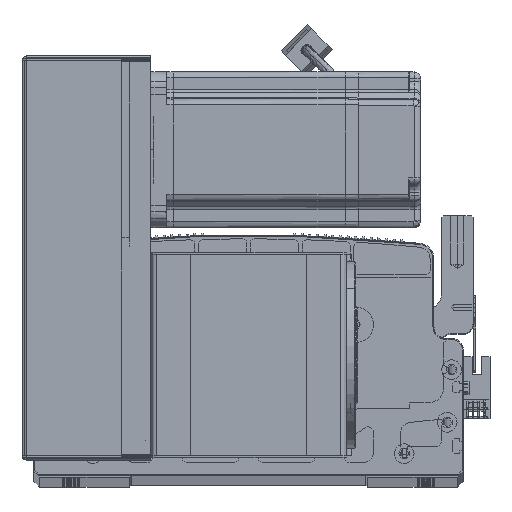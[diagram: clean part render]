
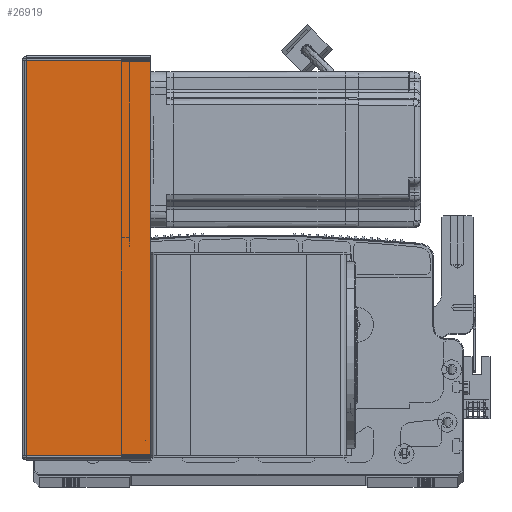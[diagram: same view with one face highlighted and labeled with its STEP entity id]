
A CAD part, top view. The second image highlights one B-rep face of the part: STEP entity #26919.
In plain terms, the highlighted planar face has unit normal (0, 0, 1) as drawn and (0, 1, 0) by its records, which use the part's own axes.
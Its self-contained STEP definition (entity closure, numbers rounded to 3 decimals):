
#490 = CARTESIAN_POINT ( 'NONE',  ( 64.5, 107.5, -0.707 ) ) ;
#5575 = PLANE ( 'NONE',  #26564 ) ;
#11788 = CARTESIAN_POINT ( 'NONE',  ( 0., 107.5, -203.293 ) ) ;
#12187 = VERTEX_POINT ( 'NONE', #490 ) ;
#17786 = LINE ( 'NONE', #84858, #60900 ) ;
#20621 = CARTESIAN_POINT ( 'NONE',  ( 0., 107.5, 0. ) ) ;
#21946 = DIRECTION ( 'NONE',  ( 1., 0., 0. ) ) ;
#26564 = AXIS2_PLACEMENT_3D ( 'NONE', #20621, #44675, #21946 ) ;
#26919 = ADVANCED_FACE ( 'NONE', ( #82412 ), #5575, .F. ) ;
#27357 = VERTEX_POINT ( 'NONE', #46375 ) ;
#27834 = LINE ( 'NONE', #11788, #32625 ) ;
#28136 = DIRECTION ( 'NONE',  ( 0., 0., -1. ) ) ;
#29338 = VECTOR ( 'NONE', #63419, 1000. ) ;
#32001 = DIRECTION ( 'NONE',  ( 0., 0., -1. ) ) ;
#32625 = VECTOR ( 'NONE', #48915, 1000. ) ;
#34133 = LINE ( 'NONE', #62468, #29338 ) ;
#34667 = EDGE_CURVE ( 'NONE', #12187, #50489, #17786, .T. ) ;
#38965 = EDGE_CURVE ( 'NONE', #55605, #12187, #34133, .T. ) ;
#39770 = EDGE_CURVE ( 'NONE', #55605, #27357, #61544, .T. ) ;
#39994 = ORIENTED_EDGE ( 'NONE', *, *, #44932, .F. ) ;
#44675 = DIRECTION ( 'NONE',  ( 0., -1., 0. ) ) ;
#44932 = EDGE_CURVE ( 'NONE', #27357, #50489, #27834, .T. ) ;
#46375 = CARTESIAN_POINT ( 'NONE',  ( 0.737, 107.5, -203.293 ) ) ;
#48355 = VECTOR ( 'NONE', #28136, 1000. ) ;
#48915 = DIRECTION ( 'NONE',  ( 1., 0., 0. ) ) ;
#49631 = ORIENTED_EDGE ( 'NONE', *, *, #34667, .T. ) ;
#50226 = CARTESIAN_POINT ( 'NONE',  ( 64.5, 107.5, -203.293 ) ) ;
#50489 = VERTEX_POINT ( 'NONE', #50226 ) ;
#51049 = ORIENTED_EDGE ( 'NONE', *, *, #39770, .F. ) ;
#55605 = VERTEX_POINT ( 'NONE', #95899 ) ;
#60900 = VECTOR ( 'NONE', #32001, 1000. ) ;
#61544 = LINE ( 'NONE', #66955, #48355 ) ;
#62468 = CARTESIAN_POINT ( 'NONE',  ( 0., 107.5, -0.707 ) ) ;
#63419 = DIRECTION ( 'NONE',  ( 1., 0., 0. ) ) ;
#66955 = CARTESIAN_POINT ( 'NONE',  ( 0.737, 107.5, 0. ) ) ;
#67349 = EDGE_LOOP ( 'NONE', ( #51049, #94709, #49631, #39994 ) ) ;
#82412 = FACE_OUTER_BOUND ( 'NONE', #67349, .T. ) ;
#84858 = CARTESIAN_POINT ( 'NONE',  ( 64.5, 107.5, -204. ) ) ;
#94709 = ORIENTED_EDGE ( 'NONE', *, *, #38965, .T. ) ;
#95899 = CARTESIAN_POINT ( 'NONE',  ( 0.737, 107.5, -0.707 ) ) ;
